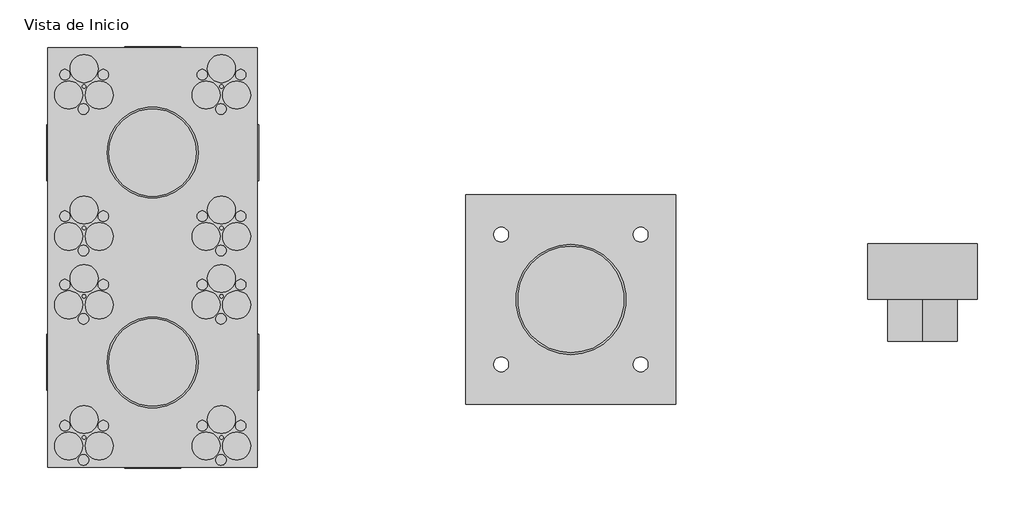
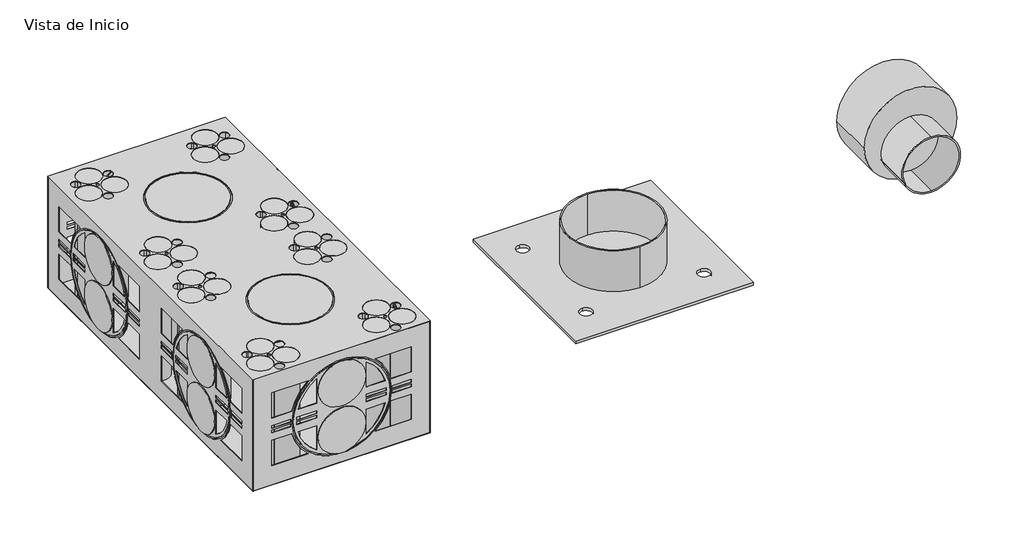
# One storey, incomplete: 2 pipe fittings, 1 proxy.
"""IFC4 building model written with IfcOpenShell, lengths in millimetres."""

from ifc_helpers import new_model, si_unit, origin, place, context, project, spatial, transform, mapped, element, save
from components import var_ef881a78, var_9defbf0c, var_cac67b6a, var_21599c06

model = new_model("IFC4")

# Units and contexts
model_context = context("Model", 3, world=origin())
ifc_project = project(units=[si_unit("LENGTHUNIT", "METRE", prefix="MILLI")], contexts=[model_context])

# Site, building, storey
site = spatial("IfcSite", under=ifc_project)
building = spatial("IfcBuilding", under=site)
storey = spatial("IfcBuildingStorey", under=building, Name="Vista de Inicio", Elevation=0.0)

# Proxy
placement = place(None, origin())
var_shape = var_ef881a78(model_context)
var_2_shape = var_9defbf0c(model_context)
element("IfcBuildingElementProxy", 1, Name="AmancoWavin_Aquacell NG : Var.", ObjectType="AmancoWavin_Aquacell NG : Var.", at=placement, inside=storey, context=model_context, shape_type="MappedRepresentation", body=[
    mapped(var_shape, transform((3840.6092325, 1050.4766956, 0.0), x_axis=(1.0, 0.0, 0.0), y_axis=(0.0, 1.0, 0.0), z_axis=(0.0, 0.0, 1.0))),
    mapped(var_2_shape, transform((3840.6092325, 1050.4766956, 0.0), x_axis=(1.0, 0.0, 0.0), y_axis=(0.0, 1.0, 0.0), z_axis=(0.0, 0.0, 1.0))),
])

# Pipe fittings
var_3_shape = var_cac67b6a(model_context)
element("IfcPipeFitting", 2, ObjectType="AmancoWavin_ConexõesdeTubos_AquacellNG_AdaptadorSuperior : Var", at=placement, inside=storey, context=model_context, shape_type="MappedRepresentation", body=[
    mapped(var_3_shape, transform((5036.586619, 930.4766956, 0.0), x_axis=(0.0, 1.0, 0.0), y_axis=(-1.0, 0.0, 0.0), z_axis=(0.0, 0.0, 1.0))),
])
var_4_shape = var_21599c06(model_context)
element("IfcPipeFitting", 3, ObjectType="AmancoWavin_ConexõesdeTubos_AquacellNG_AdaptadorDN315x200 : Var", at=placement, inside=storey, context=model_context, shape_type="MappedRepresentation", body=[
    mapped(var_4_shape, transform((6041.7199499, 1090.4766956, 114.8276042), x_axis=(-1.0, 0.0, 0.0), y_axis=(0.0, 0.0, -1.0), z_axis=(0.0, -1.0, 0.0))),
])

save(model, "model.ifc")
